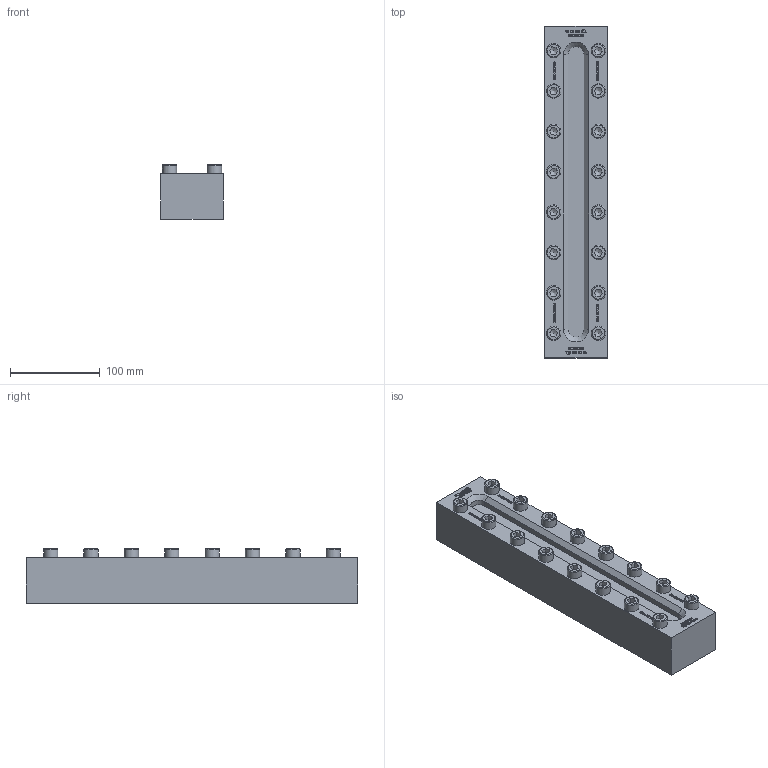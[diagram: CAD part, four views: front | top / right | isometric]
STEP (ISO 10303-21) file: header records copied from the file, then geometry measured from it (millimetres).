
FILE_DESCRIPTION(/* description */ (''),/* implementation_level */ '2;1');
FILE_NAME(/* name */ 'W:\Konstruktion_ACI\330\_Zeichnungen\STEP\ACI-330-370-16.stp',/* time_stamp */ '2022-03-01T17:14:47+01:00',/* author */ ('koslowksi'),/* organization */ (''),/* preprocessor_version */ 'ST-DEVELOPER v16.1',/* originating_system */ 'Autodesk Inventor 2016',/* authorisation */ '');
FILE_SCHEMA (('AUTOMOTIVE_DESIGN { 1 0 10303 214 3 1 1 }'));
Length unit declared in the file: centimetre
Products named in the file (1): ACI-330-370-16.stp
Bounding box: 70 x 370 x 60.9 mm (x, y, z)
Volume: 1188894.9 mm3; surface area: 122288.8 mm2
Topology: 1 solids, 1 shells, 1286 faces, 3478 edges, 2312 vertices
Faces by surface type: plane 914, bspline 318, cylinder 20, cone 18, torus 16
Full cylindrical faces by diameter (mm): 16 x16
Entity records: 42166 total; most frequent: CARTESIAN_POINT 11291, ORIENTED_EDGE 6796, DIRECTION 4662, EDGE_CURVE 3398, LINE 2608, VECTOR 2608, VERTEX_POINT 2280, EDGE_LOOP 1452
